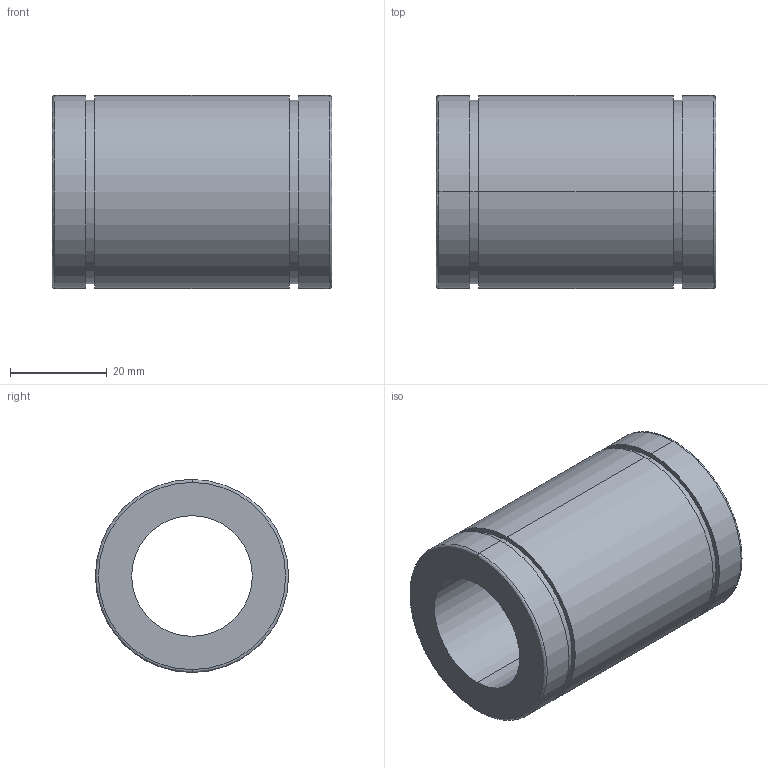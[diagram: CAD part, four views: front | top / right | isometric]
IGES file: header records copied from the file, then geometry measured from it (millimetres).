
Start section: 3D InterOp IGES (Version 21 0 1), Spatial Corp. Copyright (c) 1999-2007.
Global section: file name: L-25V.igs; native system: Spatial Corp.; preprocessor: 3D InterOp GENERIC/IGES 3.0; author: Noname; organization: Noname; date: 20220516.093830; units: millimetre
Bounding box: 58 x 40 x 40 mm (x, y, z)
Surface area: 13777.1 mm2 (no closed solid volume)
Topology: 0 solids, 0 shells, 22 faces, 88 edges, 88 vertices
Faces by surface type: revolution 16, extrusion 6
